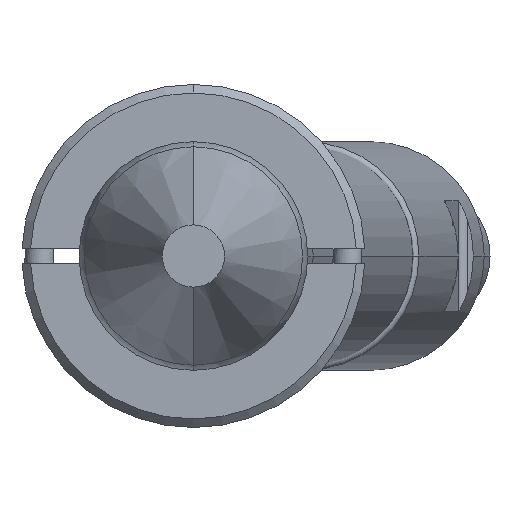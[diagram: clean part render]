
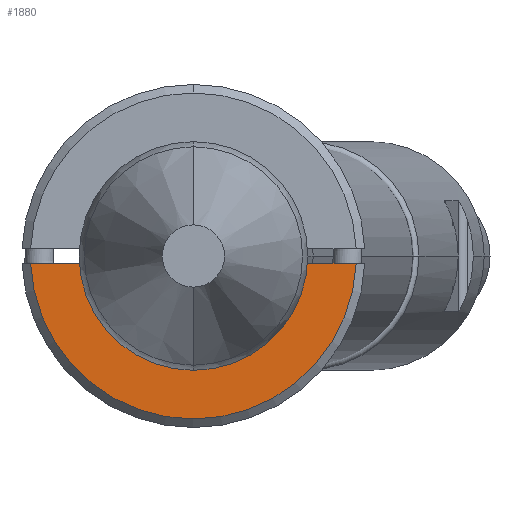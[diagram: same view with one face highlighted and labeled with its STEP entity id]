
A CAD part, front view. The second image highlights one B-rep face of the part: STEP entity #1880.
In plain terms, the highlighted planar face has unit normal (0, -1, 0).
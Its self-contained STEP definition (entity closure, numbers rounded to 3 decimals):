
#31 = AXIS2_PLACEMENT_3D ( 'NONE', #1472, #3031, #191 ) ;
#134 = CARTESIAN_POINT ( 'NONE',  ( -6., -6., -0.25 ) ) ;
#191 = DIRECTION ( 'NONE',  ( 0., 0., -1. ) ) ;
#227 = VERTEX_POINT ( 'NONE', #4021 ) ;
#312 = EDGE_LOOP ( 'NONE', ( #2842, #520, #1060, #2634, #3642 ) ) ;
#460 = DIRECTION ( 'NONE',  ( 0., 0., -1. ) ) ;
#520 = ORIENTED_EDGE ( 'NONE', *, *, #560, .T. ) ;
#560 = EDGE_CURVE ( 'NONE', #2489, #2825, #785, .T. ) ;
#564 = CARTESIAN_POINT ( 'NONE',  ( 0., -6., 0. ) ) ;
#757 = DIRECTION ( 'NONE',  ( 0., -1., 0. ) ) ;
#785 = CIRCLE ( 'NONE', #1519, 5.7 ) ;
#787 = LINE ( 'NONE', #2059, #2499 ) ;
#932 = DIRECTION ( 'NONE',  ( 0., -1., 0. ) ) ;
#956 = DIRECTION ( 'NONE',  ( 1., 0., 0. ) ) ;
#1030 = CARTESIAN_POINT ( 'NONE',  ( -5.695, -6., -0.25 ) ) ;
#1060 = ORIENTED_EDGE ( 'NONE', *, *, #1721, .F. ) ;
#1337 = CIRCLE ( 'NONE', #31, 3.2 ) ;
#1472 = CARTESIAN_POINT ( 'NONE',  ( 0., -6., 0. ) ) ;
#1519 = AXIS2_PLACEMENT_3D ( 'NONE', #564, #932, #2127 ) ;
#1602 = CIRCLE ( 'NONE', #1872, 3.2 ) ;
#1646 = CARTESIAN_POINT ( 'NONE',  ( 0., -6., -3.2 ) ) ;
#1721 = EDGE_CURVE ( 'NONE', #1909, #2825, #2911, .T. ) ;
#1872 = AXIS2_PLACEMENT_3D ( 'NONE', #3518, #3226, #2309 ) ;
#1880 = ADVANCED_FACE ( 'NONE', ( #2737 ), #3009, .T. ) ;
#1909 = VERTEX_POINT ( 'NONE', #3297 ) ;
#2059 = CARTESIAN_POINT ( 'NONE',  ( -6., -6., -0.25 ) ) ;
#2127 = DIRECTION ( 'NONE',  ( 0., 0., -1. ) ) ;
#2239 = EDGE_CURVE ( 'NONE', #1909, #4023, #1337, .T. ) ;
#2309 = DIRECTION ( 'NONE',  ( 0., 0., -1. ) ) ;
#2440 = CARTESIAN_POINT ( 'NONE',  ( 5.695, -6., -0.25 ) ) ;
#2489 = VERTEX_POINT ( 'NONE', #1030 ) ;
#2499 = VECTOR ( 'NONE', #3334, 1000. ) ;
#2634 = ORIENTED_EDGE ( 'NONE', *, *, #2239, .T. ) ;
#2737 = FACE_OUTER_BOUND ( 'NONE', #312, .T. ) ;
#2825 = VERTEX_POINT ( 'NONE', #2440 ) ;
#2842 = ORIENTED_EDGE ( 'NONE', *, *, #3409, .F. ) ;
#2889 = EDGE_CURVE ( 'NONE', #4023, #227, #1602, .T. ) ;
#2911 = LINE ( 'NONE', #134, #3462 ) ;
#3009 = PLANE ( 'NONE',  #3971 ) ;
#3031 = DIRECTION ( 'NONE',  ( 0., 1., 0. ) ) ;
#3226 = DIRECTION ( 'NONE',  ( 0., 1., 0. ) ) ;
#3297 = CARTESIAN_POINT ( 'NONE',  ( 3.19, -6., -0.25 ) ) ;
#3334 = DIRECTION ( 'NONE',  ( 1., 0., 0. ) ) ;
#3409 = EDGE_CURVE ( 'NONE', #2489, #227, #787, .T. ) ;
#3462 = VECTOR ( 'NONE', #956, 1000. ) ;
#3518 = CARTESIAN_POINT ( 'NONE',  ( 0., -6., 0. ) ) ;
#3642 = ORIENTED_EDGE ( 'NONE', *, *, #2889, .T. ) ;
#3660 = CARTESIAN_POINT ( 'NONE',  ( -6., -6., 0. ) ) ;
#3971 = AXIS2_PLACEMENT_3D ( 'NONE', #3660, #757, #460 ) ;
#4021 = CARTESIAN_POINT ( 'NONE',  ( -3.19, -6., -0.25 ) ) ;
#4023 = VERTEX_POINT ( 'NONE', #1646 ) ;
